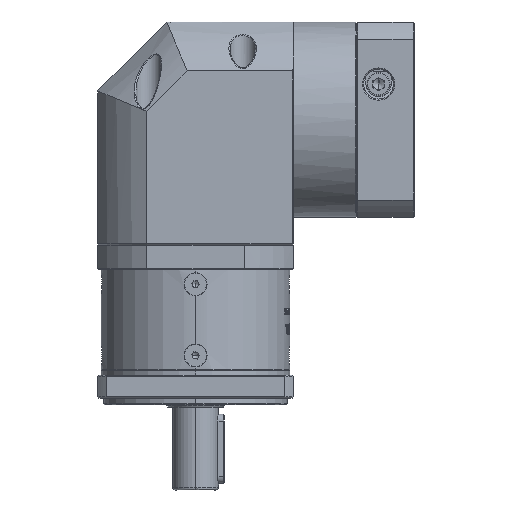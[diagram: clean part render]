
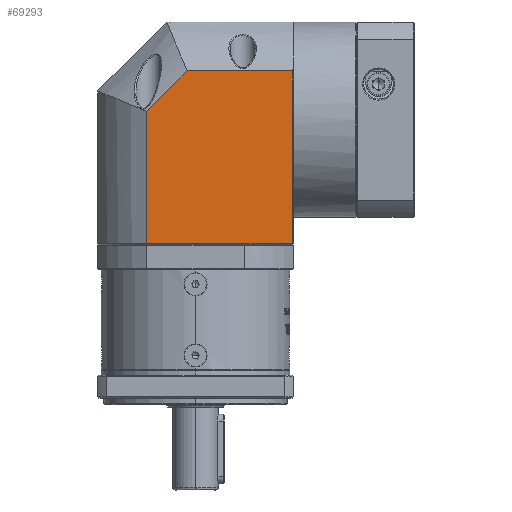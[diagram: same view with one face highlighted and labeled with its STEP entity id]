
A CAD part, front view. The second image highlights one B-rep face of the part: STEP entity #69293.
In plain terms, the highlighted planar face has unit normal (0, -1, 0).
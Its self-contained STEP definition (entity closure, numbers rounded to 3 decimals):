
#1913 = VERTEX_POINT ( 'NONE', #37920 ) ;
#8492 = CARTESIAN_POINT ( 'NONE',  ( 16.08, 97.608, 1.247 ) ) ;
#9654 = CARTESIAN_POINT ( 'NONE',  ( 79.794, 97.608, -56.436 ) ) ;
#10439 = VECTOR ( 'NONE', #160997, 1000. ) ;
#17106 = VECTOR ( 'NONE', #176923, 1000. ) ;
#18861 = ORIENTED_EDGE ( 'NONE', *, *, #39940, .F. ) ;
#19176 = CARTESIAN_POINT ( 'NONE',  ( 16.08, 97.608, -56.436 ) ) ;
#19195 = EDGE_CURVE ( 'NONE', #150110, #19993, #175722, .T. ) ;
#19770 = CARTESIAN_POINT ( 'NONE',  ( 79.794, 97.608, 40.064 ) ) ;
#19993 = VERTEX_POINT ( 'NONE', #8492 ) ;
#24742 = LINE ( 'NONE', #137231, #131804 ) ;
#28971 = CARTESIAN_POINT ( 'NONE',  ( 16.08, 97.608, 40.064 ) ) ;
#30466 = EDGE_CURVE ( 'NONE', #1913, #131638, #47598, .T. ) ;
#33852 = DIRECTION ( 'NONE',  ( -1., 0., 0. ) ) ;
#35395 = ORIENTED_EDGE ( 'NONE', *, *, #19195, .F. ) ;
#37920 = CARTESIAN_POINT ( 'NONE',  ( 33.611, 97.608, 18.777 ) ) ;
#38704 = ORIENTED_EDGE ( 'NONE', *, *, #143034, .T. ) ;
#38868 = LINE ( 'NONE', #151146, #71688 ) ;
#39940 = EDGE_CURVE ( 'NONE', #19993, #1913, #38868, .T. ) ;
#41963 = EDGE_CURVE ( 'NONE', #131638, #80386, #24742, .T. ) ;
#47598 = LINE ( 'NONE', #90240, #10439 ) ;
#65518 = ORIENTED_EDGE ( 'NONE', *, *, #41963, .F. ) ;
#67524 = DIRECTION ( 'NONE',  ( 0.707, 0., 0.707 ) ) ;
#69293 = ADVANCED_FACE ( 'NONE', ( #77663 ), #144898, .F. ) ;
#71688 = VECTOR ( 'NONE', #67524, 1000. ) ;
#77663 = FACE_OUTER_BOUND ( 'NONE', #119176, .T. ) ;
#80386 = VERTEX_POINT ( 'NONE', #149167 ) ;
#81774 = DIRECTION ( 'NONE',  ( 0., 0., -1. ) ) ;
#90240 = CARTESIAN_POINT ( 'NONE',  ( 79.794, 97.608, 18.777 ) ) ;
#91427 = LINE ( 'NONE', #9654, #17106 ) ;
#92009 = CARTESIAN_POINT ( 'NONE',  ( 79.294, 97.608, 18.777 ) ) ;
#115200 = ORIENTED_EDGE ( 'NONE', *, *, #30466, .F. ) ;
#117471 = DIRECTION ( 'NONE',  ( 0., 1., 0. ) ) ;
#119176 = EDGE_LOOP ( 'NONE', ( #38704, #65518, #115200, #18861, #35395 ) ) ;
#130015 = AXIS2_PLACEMENT_3D ( 'NONE', #19770, #117471, #33852 ) ;
#131638 = VERTEX_POINT ( 'NONE', #92009 ) ;
#131804 = VECTOR ( 'NONE', #81774, 1000. ) ;
#134172 = VECTOR ( 'NONE', #168720, 1000. ) ;
#137231 = CARTESIAN_POINT ( 'NONE',  ( 79.294, 97.608, 40.064 ) ) ;
#143034 = EDGE_CURVE ( 'NONE', #150110, #80386, #91427, .T. ) ;
#144898 = PLANE ( 'NONE',  #130015 ) ;
#149167 = CARTESIAN_POINT ( 'NONE',  ( 79.294, 97.608, -56.436 ) ) ;
#150110 = VERTEX_POINT ( 'NONE', #19176 ) ;
#151146 = CARTESIAN_POINT ( 'NONE',  ( 16.08, 97.608, 1.247 ) ) ;
#160997 = DIRECTION ( 'NONE',  ( 1., 0., 0. ) ) ;
#168720 = DIRECTION ( 'NONE',  ( 0., 0., 1. ) ) ;
#175722 = LINE ( 'NONE', #28971, #134172 ) ;
#176923 = DIRECTION ( 'NONE',  ( 1., 0., 0. ) ) ;
